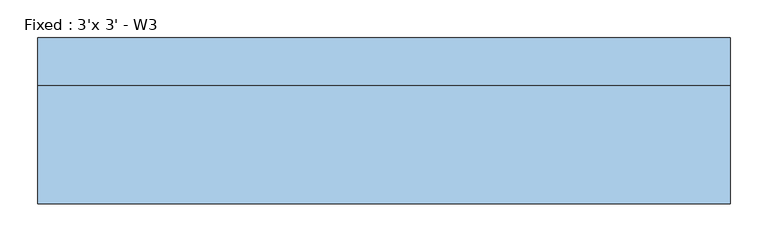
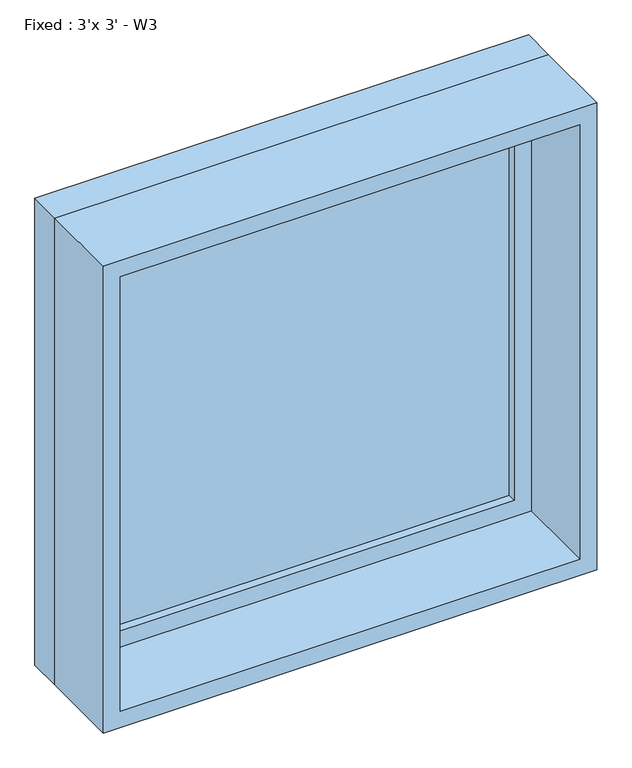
"""IFC4 building model written with IfcOpenShell, lengths in millimetres: window geometry, Fixed : 3'x 3' - W3."""

from ifc_helpers import new_model, si_unit, frame, origin, place, context, project, spatial, polyline, outline, extrude, source, transform, mapped, element, save


def fixed_3_x_3_w3_42a4cb5f(model_context):
    return source(origin(), model_context, "Body", "SweptSolid", [
        extrude(outline(polyline([(355.6, 61.9125), (-431.8, 61.9125), (-431.8, 74.6125), (355.6, 74.6125), (355.6, 61.9125)])), frame((0.0, 0.0, 1587.5), z_axis=(0.0, 0.0, 1.0), x_axis=(1.0, 0.0, 0.0)), (0.0, 0.0, 1.0), 787.4),
        extrude(outline(polyline([(2419.35, -476.25), (1543.05, -476.25), (1543.05, 400.05), (2419.35, 400.05), (2419.35, -476.25)]), holes=[polyline([(2374.9, -431.8), (2374.9, 355.6), (1587.5, 355.6), (1587.5, -431.8), (2374.9, -431.8)])]), frame((0.0, 46.0375, 0.0), z_axis=(0.0, 1.0, 0.0), x_axis=(0.0, 0.0, 1.0)), (0.0, 0.0, 1.0), 44.45),
        extrude(outline(polyline([(2438.4, -495.3), (1524.0, -495.3), (1524.0, 419.1), (2438.4, 419.1), (2438.4, -495.3)]), holes=[polyline([(2406.65, -463.55), (2406.65, 387.35), (1555.75, 387.35), (1555.75, -463.55), (2406.65, -463.55)])]), frame((0.0, -109.5375, 0.0), z_axis=(0.0, 1.0, 0.0), x_axis=(0.0, 0.0, 1.0)), (0.0, 0.0, 1.0), 155.575),
        extrude(outline(polyline([(2438.4, 419.1), (2438.4, -495.3), (1524.0, -495.3), (1524.0, 419.1), (2438.4, 419.1)]), holes=[polyline([(2419.35, 400.05), (1543.05, 400.05), (1543.05, -476.25), (2419.35, -476.25), (2419.35, 400.05)])]), frame((0.0, 46.0375, 0.0), z_axis=(0.0, 1.0, 0.0), x_axis=(0.0, 0.0, 1.0)), (0.0, 0.0, 1.0), 63.5),
    ])


if __name__ == "__main__":
    model = new_model("IFC4")
    model_context = context("Model", 3, world=origin())
    ifc_project = project(units=[si_unit("LENGTHUNIT", "METRE", prefix="MILLI")], contexts=[model_context])
    site = spatial("IfcSite", under=ifc_project)
    building = spatial("IfcBuilding", under=site)
    placement = place(None, origin())
    fixed_3_x_3_w3_shape = fixed_3_x_3_w3_42a4cb5f(model_context)
    element("IfcWindow", 1, ObjectType="Fixed : 3'x 3' - W3", at=placement, inside=building, context=model_context, shape_type="MappedRepresentation", body=[
        mapped(fixed_3_x_3_w3_shape, transform((0.0, 0.0, 0.0), x_axis=(1.0, 0.0, 0.0), y_axis=(0.0, 1.0, 0.0), z_axis=(0.0, 0.0, 1.0))),
    ])
    save(model, "model.ifc")
